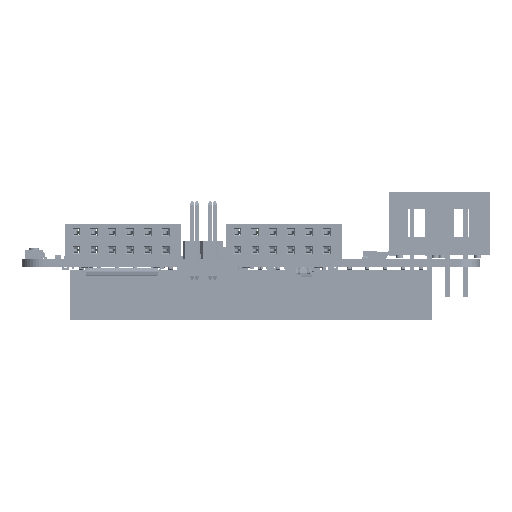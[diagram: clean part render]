
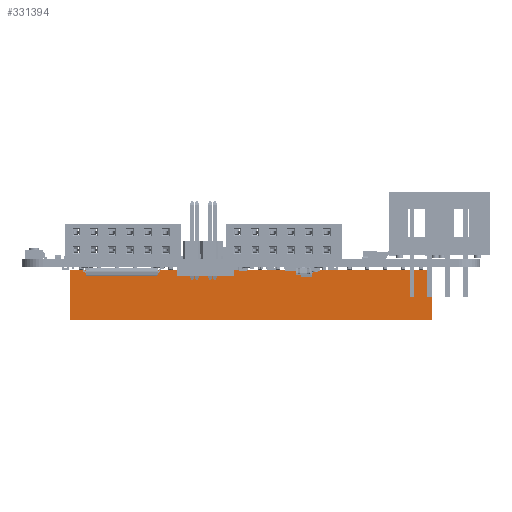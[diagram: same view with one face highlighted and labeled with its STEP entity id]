
A CAD part, front view. The second image highlights one B-rep face of the part: STEP entity #331394.
In plain terms, the highlighted planar face has unit normal (0, -1, 0) as drawn and (0, 0, -1) by its records, which use the part's own axes.
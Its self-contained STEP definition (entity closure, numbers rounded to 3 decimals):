
#329938 = VERTEX_POINT('',#329939);
#329939 = CARTESIAN_POINT('',(44.7,7.1,-2.5));
#329945 = EDGE_CURVE('',#329946,#329938,#329948,.T.);
#329946 = VERTEX_POINT('',#329947);
#329947 = CARTESIAN_POINT('',(-6.6,7.1,-2.5));
#329948 = LINE('',#329949,#329950);
#329949 = CARTESIAN_POINT('',(0.,7.1,-2.5));
#329950 = VECTOR('',#329951,1.);
#329951 = DIRECTION('',(1.,0.,0.));
#331343 = EDGE_CURVE('',#331344,#329946,#331346,.T.);
#331344 = VERTEX_POINT('',#331345);
#331345 = CARTESIAN_POINT('',(-6.6,0.,-2.5));
#331346 = LINE('',#331347,#331348);
#331347 = CARTESIAN_POINT('',(-6.6,3.55,-2.5));
#331348 = VECTOR('',#331349,1.);
#331349 = DIRECTION('',(0.,1.,0.));
#331394 = ADVANCED_FACE('',(#331395),#331413,.T.);
#331395 = FACE_BOUND('',#331396,.T.);
#331396 = EDGE_LOOP('',(#331397,#331398,#331406,#331412));
#331397 = ORIENTED_EDGE('',*,*,#329945,.T.);
#331398 = ORIENTED_EDGE('',*,*,#331399,.T.);
#331399 = EDGE_CURVE('',#329938,#331400,#331402,.T.);
#331400 = VERTEX_POINT('',#331401);
#331401 = CARTESIAN_POINT('',(44.7,0.,-2.5));
#331402 = LINE('',#331403,#331404);
#331403 = CARTESIAN_POINT('',(44.7,3.55,-2.5));
#331404 = VECTOR('',#331405,1.);
#331405 = DIRECTION('',(-0.,-1.,-0.));
#331406 = ORIENTED_EDGE('',*,*,#331407,.F.);
#331407 = EDGE_CURVE('',#331344,#331400,#331408,.T.);
#331408 = LINE('',#331409,#331410);
#331409 = CARTESIAN_POINT('',(0.,0.,-2.5));
#331410 = VECTOR('',#331411,1.);
#331411 = DIRECTION('',(1.,-0.,-0.));
#331412 = ORIENTED_EDGE('',*,*,#331343,.T.);
#331413 = PLANE('',#331414);
#331414 = AXIS2_PLACEMENT_3D('',#331415,#331416,#331417);
#331415 = CARTESIAN_POINT('',(6.864,-0.142,-2.5));
#331416 = DIRECTION('',(0.,0.,-1.));
#331417 = DIRECTION('',(-1.,0.,0.));
